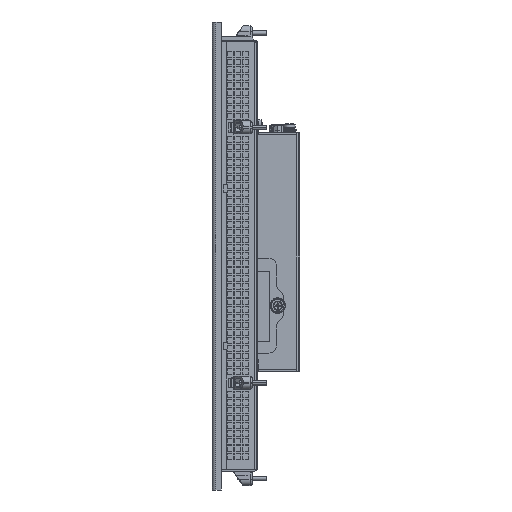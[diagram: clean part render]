
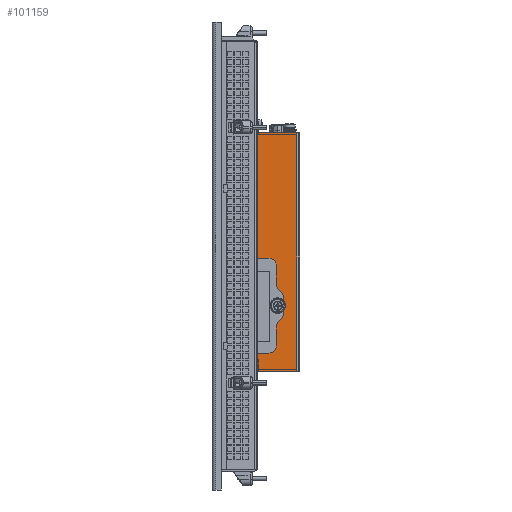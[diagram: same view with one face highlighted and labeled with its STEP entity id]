
A CAD part, left-side view. The second image highlights one B-rep face of the part: STEP entity #101159.
In plain terms, the highlighted planar face has unit normal (-1, 0, 0).
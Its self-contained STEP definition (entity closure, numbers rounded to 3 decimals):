
#76652=DIRECTION('',(0.,0.,1.));
#76653=VECTOR('',#76652,163.5);
#76654=CARTESIAN_POINT('',(-126.5,-47.9,-64.25));
#76655=LINE('',#76654,#76653);
#76656=DIRECTION('',(0.,1.,0.));
#76657=VECTOR('',#76656,8.5);
#76658=CARTESIAN_POINT('',(-126.5,-29.4,4.25));
#76659=LINE('',#76658,#76657);
#76660=DIRECTION('',(0.,-1.,0.));
#76661=VECTOR('',#76660,3.);
#76662=CARTESIAN_POINT('',(-126.5,-17.9,4.25));
#76663=LINE('',#76662,#76661);
#76664=DIRECTION('',(0.,-0.707,-0.707));
#76665=VECTOR('',#76664,1.414);
#76666=CARTESIAN_POINT('',(-126.5,-16.9,5.25));
#76667=LINE('',#76666,#76665);
#76668=DIRECTION('',(0.,0.,-1.));
#76669=VECTOR('',#76668,28.);
#76670=CARTESIAN_POINT('',(-126.5,-16.9,33.25));
#76671=LINE('',#76670,#76669);
#76672=DIRECTION('',(0.,0.707,-0.707));
#76673=VECTOR('',#76672,1.414);
#76674=CARTESIAN_POINT('',(-126.5,-17.9,34.25));
#76675=LINE('',#76674,#76673);
#76676=DIRECTION('',(0.,-1.,0.));
#76677=VECTOR('',#76676,3.);
#76678=CARTESIAN_POINT('',(-126.5,-17.9,34.25));
#76679=LINE('',#76678,#76677);
#76680=DIRECTION('',(0.,0.,-1.));
#76681=VECTOR('',#76680,55.);
#76682=CARTESIAN_POINT('',(-126.5,-20.9,89.25));
#76683=LINE('',#76682,#76681);
#76684=DIRECTION('',(0.,0.,-1.));
#76685=VECTOR('',#76684,4.);
#76686=CARTESIAN_POINT('',(-126.5,-20.9,93.25));
#76687=LINE('',#76686,#76685);
#76688=DIRECTION('',(0.,1.,0.));
#76689=VECTOR('',#76688,1.5);
#76690=CARTESIAN_POINT('',(-126.5,-20.9,93.25));
#76691=LINE('',#76690,#76689);
#76692=DIRECTION('',(0.,0.,-1.));
#76693=VECTOR('',#76692,3.);
#76694=CARTESIAN_POINT('',(-126.5,-19.4,93.25));
#76695=LINE('',#76694,#76693);
#76696=DIRECTION('',(0.,-0.707,0.707));
#76697=VECTOR('',#76696,1.414);
#76698=CARTESIAN_POINT('',(-126.5,-18.4,89.25));
#76699=LINE('',#76698,#76697);
#76700=DIRECTION('',(0.,-1.,0.));
#76701=VECTOR('',#76700,0.5);
#76702=CARTESIAN_POINT('',(-126.5,-17.9,89.25));
#76703=LINE('',#76702,#76701);
#76704=DIRECTION('',(0.,-0.707,-0.707));
#76705=VECTOR('',#76704,1.414);
#76706=CARTESIAN_POINT('',(-126.5,-16.9,90.25));
#76707=LINE('',#76706,#76705);
#76708=DIRECTION('',(0.,0.,-1.));
#76709=VECTOR('',#76708,8.);
#76710=CARTESIAN_POINT('',(-126.5,-16.9,98.25));
#76711=LINE('',#76710,#76709);
#76712=DIRECTION('',(0.,0.707,-0.707));
#76713=VECTOR('',#76712,1.414);
#76714=CARTESIAN_POINT('',(-126.5,-17.9,99.25));
#76715=LINE('',#76714,#76713);
#76716=DIRECTION('',(0.,0.,1.));
#76717=VECTOR('',#76716,4.);
#76718=CARTESIAN_POINT('',(-126.5,-20.9,-64.25));
#76719=LINE('',#76718,#76717);
#76720=DIRECTION('',(0.,1.,0.));
#76721=VECTOR('',#76720,1.5);
#76722=CARTESIAN_POINT('',(-126.5,-20.9,-60.25));
#76723=LINE('',#76722,#76721);
#76724=DIRECTION('',(0.,0.,-1.));
#76725=VECTOR('',#76724,3.);
#76726=CARTESIAN_POINT('',(-126.5,-19.4,-60.25));
#76727=LINE('',#76726,#76725);
#76728=DIRECTION('',(0.,-0.707,0.707));
#76729=VECTOR('',#76728,1.414);
#76730=CARTESIAN_POINT('',(-126.5,-18.4,-64.25));
#76731=LINE('',#76730,#76729);
#76732=DIRECTION('',(0.,-0.707,-0.707));
#76733=VECTOR('',#76732,1.414);
#76734=CARTESIAN_POINT('',(-126.5,-16.9,-63.25));
#76735=LINE('',#76734,#76733);
#76736=DIRECTION('',(0.,0.,-1.));
#76737=VECTOR('',#76736,6.5);
#76738=CARTESIAN_POINT('',(-126.5,-16.9,-56.75));
#76739=LINE('',#76738,#76737);
#76740=DIRECTION('',(0.,0.707,-0.707));
#76741=VECTOR('',#76740,1.414);
#76742=CARTESIAN_POINT('',(-126.5,-17.9,-55.75));
#76743=LINE('',#76742,#76741);
#76744=DIRECTION('',(0.,-1.,0.));
#76745=VECTOR('',#76744,3.);
#76746=CARTESIAN_POINT('',(-126.5,-17.9,-55.75));
#76747=LINE('',#76746,#76745);
#76748=DIRECTION('',(0.,0.,-1.));
#76749=VECTOR('',#76748,12.);
#76750=CARTESIAN_POINT('',(-126.5,-20.9,-43.75));
#76751=LINE('',#76750,#76749);
#76752=DIRECTION('',(0.,-1.,0.));
#76753=VECTOR('',#76752,8.5);
#76754=CARTESIAN_POINT('',(-126.5,-20.9,-43.75));
#76755=LINE('',#76754,#76753);
#76756=DIRECTION('',(0.,0.,1.));
#76757=VECTOR('',#76756,48.);
#76758=CARTESIAN_POINT('',(-126.5,-29.4,-43.75));
#76759=LINE('',#76758,#76757);
#76760=CARTESIAN_POINT('',(-126.5,-34.9,-19.25));
#76761=DIRECTION('',(-1.,0.,0.));
#76762=DIRECTION('',(0.,0.,1.));
#76763=AXIS2_PLACEMENT_3D('',#76760,#76761,#76762);
#76765=CARTESIAN_POINT('',(-126.5,-34.9,-19.25));
#76766=DIRECTION('',(-1.,0.,0.));
#76767=DIRECTION('',(0.,0.,-1.));
#76768=AXIS2_PLACEMENT_3D('',#76765,#76766,#76767);
#76928=DIRECTION('',(0.,-1.,0.));
#76929=VECTOR('',#76928,0.5);
#76930=CARTESIAN_POINT('',(-126.5,-17.9,-64.25));
#76931=LINE('',#76930,#76929);
#76940=DIRECTION('',(0.,-1.,0.));
#76941=VECTOR('',#76940,27.);
#76942=CARTESIAN_POINT('',(-126.5,-20.9,-64.25));
#76943=LINE('',#76942,#76941);
#76956=DIRECTION('',(0.,1.,0.));
#76957=VECTOR('',#76956,30.);
#76958=CARTESIAN_POINT('',(-126.5,-47.9,99.25));
#76959=LINE('',#76958,#76957);
#89816=CARTESIAN_POINT('',(-126.5,-47.9,-64.25));
#89817=CARTESIAN_POINT('',(-126.5,-47.9,99.25));
#89818=VERTEX_POINT('',#89816);
#89819=VERTEX_POINT('',#89817);
#92306=CARTESIAN_POINT('',(-126.5,-20.9,-60.25));
#92307=CARTESIAN_POINT('',(-126.5,-20.9,-64.25));
#92308=VERTEX_POINT('',#92306);
#92309=VERTEX_POINT('',#92307);
#92310=CARTESIAN_POINT('',(-126.5,-19.4,-60.25));
#92311=VERTEX_POINT('',#92310);
#92336=CARTESIAN_POINT('',(-126.5,-20.9,89.25));
#92337=CARTESIAN_POINT('',(-126.5,-20.9,34.25));
#92338=VERTEX_POINT('',#92336);
#92339=VERTEX_POINT('',#92337);
#92352=CARTESIAN_POINT('',(-126.5,-20.9,-55.75));
#92354=VERTEX_POINT('',#92352);
#92388=CARTESIAN_POINT('',(-126.5,-17.9,-55.75));
#92389=CARTESIAN_POINT('',(-126.5,-16.9,-56.75));
#92390=VERTEX_POINT('',#92388);
#92391=VERTEX_POINT('',#92389);
#92396=CARTESIAN_POINT('',(-126.5,-16.9,5.25));
#92397=CARTESIAN_POINT('',(-126.5,-17.9,4.25));
#92398=VERTEX_POINT('',#92396);
#92399=VERTEX_POINT('',#92397);
#92404=CARTESIAN_POINT('',(-126.5,-17.9,34.25));
#92405=CARTESIAN_POINT('',(-126.5,-16.9,33.25));
#92406=VERTEX_POINT('',#92404);
#92407=VERTEX_POINT('',#92405);
#92412=CARTESIAN_POINT('',(-126.5,-16.9,90.25));
#92413=CARTESIAN_POINT('',(-126.5,-17.9,89.25));
#92414=VERTEX_POINT('',#92412);
#92415=VERTEX_POINT('',#92413);
#92422=CARTESIAN_POINT('',(-126.5,-18.4,89.25));
#92423=VERTEX_POINT('',#92422);
#92428=CARTESIAN_POINT('',(-126.5,-16.9,98.25));
#92429=VERTEX_POINT('',#92428);
#92430=CARTESIAN_POINT('',(-126.5,-16.9,-63.25));
#92431=VERTEX_POINT('',#92430);
#92444=CARTESIAN_POINT('',(-126.5,-20.9,4.25));
#92445=CARTESIAN_POINT('',(-126.5,-29.4,4.25));
#92446=VERTEX_POINT('',#92444);
#92447=VERTEX_POINT('',#92445);
#92448=CARTESIAN_POINT('',(-126.5,-29.4,-43.75));
#92449=VERTEX_POINT('',#92448);
#92450=CARTESIAN_POINT('',(-126.5,-20.9,-43.75));
#92451=VERTEX_POINT('',#92450);
#92462=CARTESIAN_POINT('',(-126.5,-19.4,93.25));
#92463=CARTESIAN_POINT('',(-126.5,-20.9,93.25));
#92464=VERTEX_POINT('',#92462);
#92465=VERTEX_POINT('',#92463);
#92484=CARTESIAN_POINT('',(-126.5,-18.4,-64.25));
#92485=CARTESIAN_POINT('',(-126.5,-19.4,-63.25));
#92486=VERTEX_POINT('',#92484);
#92487=VERTEX_POINT('',#92485);
#92492=CARTESIAN_POINT('',(-126.5,-19.4,90.25));
#92493=VERTEX_POINT('',#92492);
#92504=CARTESIAN_POINT('',(-126.5,-17.9,-64.25));
#92505=VERTEX_POINT('',#92504);
#92508=CARTESIAN_POINT('',(-126.5,-17.9,99.25));
#92509=VERTEX_POINT('',#92508);
#95096=CARTESIAN_POINT('',(-126.5,-34.9,-21.4));
#95097=CARTESIAN_POINT('',(-126.5,-34.9,-17.1));
#95098=VERTEX_POINT('',#95096);
#95099=VERTEX_POINT('',#95097);
#101087=CARTESIAN_POINT('',(-126.5,-20.9,-64.25));
#101088=DIRECTION('',(-1.,0.,0.));
#101089=DIRECTION('',(0.,-1.,0.));
#101090=AXIS2_PLACEMENT_3D('',#101087,#101088,#101089);
#101091=PLANE('',#101090);
#101093=ORIENTED_EDGE('',*,*,#101092,.T.);
#101095=ORIENTED_EDGE('',*,*,#101094,.F.);
#101097=ORIENTED_EDGE('',*,*,#101096,.F.);
#101099=ORIENTED_EDGE('',*,*,#101098,.F.);
#101101=ORIENTED_EDGE('',*,*,#101100,.F.);
#101103=ORIENTED_EDGE('',*,*,#101102,.T.);
#101105=ORIENTED_EDGE('',*,*,#101104,.F.);
#101107=ORIENTED_EDGE('',*,*,#101106,.F.);
#101109=ORIENTED_EDGE('',*,*,#101108,.T.);
#101111=ORIENTED_EDGE('',*,*,#101110,.T.);
#101113=ORIENTED_EDGE('',*,*,#101112,.F.);
#101115=ORIENTED_EDGE('',*,*,#101114,.F.);
#101117=ORIENTED_EDGE('',*,*,#101116,.F.);
#101119=ORIENTED_EDGE('',*,*,#101118,.F.);
#101121=ORIENTED_EDGE('',*,*,#101120,.F.);
#101123=ORIENTED_EDGE('',*,*,#101122,.F.);
#101124=ORIENTED_EDGE('',*,*,#101079,.F.);
#101126=ORIENTED_EDGE('',*,*,#101125,.F.);
#101128=ORIENTED_EDGE('',*,*,#101127,.T.);
#101130=ORIENTED_EDGE('',*,*,#101129,.T.);
#101132=ORIENTED_EDGE('',*,*,#101131,.T.);
#101134=ORIENTED_EDGE('',*,*,#101133,.F.);
#101136=ORIENTED_EDGE('',*,*,#101135,.F.);
#101138=ORIENTED_EDGE('',*,*,#101137,.F.);
#101140=ORIENTED_EDGE('',*,*,#101139,.F.);
#101142=ORIENTED_EDGE('',*,*,#101141,.F.);
#101144=ORIENTED_EDGE('',*,*,#101143,.T.);
#101146=ORIENTED_EDGE('',*,*,#101145,.F.);
#101148=ORIENTED_EDGE('',*,*,#101147,.T.);
#101150=ORIENTED_EDGE('',*,*,#101149,.T.);
#101151=EDGE_LOOP('',(#101093,#101095,#101097,#101099,#101101,#101103,#101105,
#101107,#101109,#101111,#101113,#101115,#101117,#101119,#101121,#101123,#101124,
#101126,#101128,#101130,#101132,#101134,#101136,#101138,#101140,#101142,#101144,
#101146,#101148,#101150));
#101152=FACE_OUTER_BOUND('',#101151,.F.);
#101154=ORIENTED_EDGE('',*,*,#101153,.T.);
#101156=ORIENTED_EDGE('',*,*,#101155,.T.);
#101157=EDGE_LOOP('',(#101154,#101156));
#101158=FACE_BOUND('',#101157,.F.);
#76764=CIRCLE('',#76763,2.15);
#76769=CIRCLE('',#76768,2.15);
#101079=EDGE_CURVE('',#89818,#89819,#76655,.T.);
#101092=EDGE_CURVE('',#92447,#92446,#76659,.T.);
#101094=EDGE_CURVE('',#92399,#92446,#76663,.T.);
#101096=EDGE_CURVE('',#92398,#92399,#76667,.T.);
#101098=EDGE_CURVE('',#92407,#92398,#76671,.T.);
#101100=EDGE_CURVE('',#92406,#92407,#76675,.T.);
#101102=EDGE_CURVE('',#92406,#92339,#76679,.T.);
#101104=EDGE_CURVE('',#92338,#92339,#76683,.T.);
#101106=EDGE_CURVE('',#92465,#92338,#76687,.T.);
#101108=EDGE_CURVE('',#92465,#92464,#76691,.T.);
#101110=EDGE_CURVE('',#92464,#92493,#76695,.T.);
#101112=EDGE_CURVE('',#92423,#92493,#76699,.T.);
#101114=EDGE_CURVE('',#92415,#92423,#76703,.T.);
#101116=EDGE_CURVE('',#92414,#92415,#76707,.T.);
#101118=EDGE_CURVE('',#92429,#92414,#76711,.T.);
#101120=EDGE_CURVE('',#92509,#92429,#76715,.T.);
#101122=EDGE_CURVE('',#89819,#92509,#76959,.T.);
#101125=EDGE_CURVE('',#92309,#89818,#76943,.T.);
#101127=EDGE_CURVE('',#92309,#92308,#76719,.T.);
#101129=EDGE_CURVE('',#92308,#92311,#76723,.T.);
#101131=EDGE_CURVE('',#92311,#92487,#76727,.T.);
#101133=EDGE_CURVE('',#92486,#92487,#76731,.T.);
#101135=EDGE_CURVE('',#92505,#92486,#76931,.T.);
#101137=EDGE_CURVE('',#92431,#92505,#76735,.T.);
#101139=EDGE_CURVE('',#92391,#92431,#76739,.T.);
#101141=EDGE_CURVE('',#92390,#92391,#76743,.T.);
#101143=EDGE_CURVE('',#92390,#92354,#76747,.T.);
#101145=EDGE_CURVE('',#92451,#92354,#76751,.T.);
#101147=EDGE_CURVE('',#92451,#92449,#76755,.T.);
#101149=EDGE_CURVE('',#92449,#92447,#76759,.T.);
#101153=EDGE_CURVE('',#95099,#95098,#76764,.T.);
#101155=EDGE_CURVE('',#95098,#95099,#76769,.T.);
#101159=ADVANCED_FACE('',(#101152,#101158),#101091,.T.);
